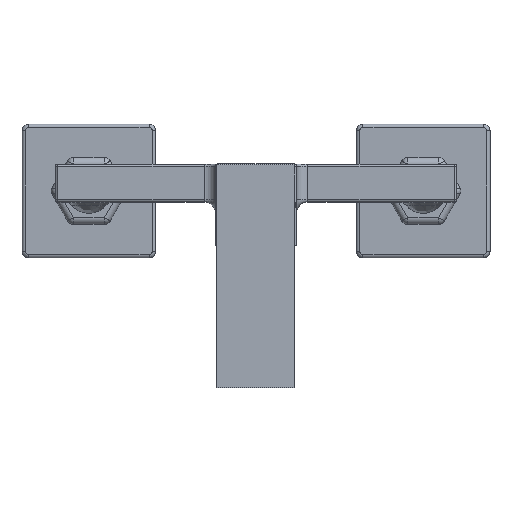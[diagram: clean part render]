
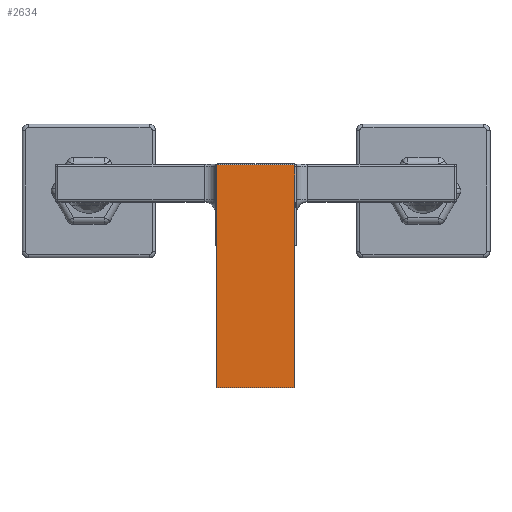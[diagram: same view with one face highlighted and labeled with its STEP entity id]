
A CAD part, top view. The second image highlights one B-rep face of the part: STEP entity #2634.
In plain terms, the highlighted planar face has unit normal (0, 0, 1).
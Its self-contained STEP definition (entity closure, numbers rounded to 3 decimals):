
#140=PLANE('',#2960);
#411=LINE('',#4833,#609);
#419=LINE('',#4849,#617);
#420=LINE('',#4852,#618);
#421=LINE('',#4853,#619);
#609=VECTOR('',#3754,10.);
#617=VECTOR('',#3770,10.);
#618=VECTOR('',#3773,10.);
#619=VECTOR('',#3774,10.);
#848=FACE_OUTER_BOUND('',#1014,.T.);
#1014=EDGE_LOOP('',(#2453,#2454,#2455,#2456));
#1373=VERTEX_POINT('',#4823);
#1377=VERTEX_POINT('',#4831);
#1381=VERTEX_POINT('',#4847);
#1382=VERTEX_POINT('',#4851);
#1733=EDGE_CURVE('',#1377,#1373,#411,.T.);
#1741=EDGE_CURVE('',#1377,#1381,#419,.T.);
#1742=EDGE_CURVE('',#1382,#1381,#420,.T.);
#1743=EDGE_CURVE('',#1373,#1382,#421,.T.);
#2453=ORIENTED_EDGE('',*,*,#1741,.T.);
#2454=ORIENTED_EDGE('',*,*,#1742,.F.);
#2455=ORIENTED_EDGE('',*,*,#1743,.F.);
#2456=ORIENTED_EDGE('',*,*,#1733,.F.);
#2634=ADVANCED_FACE('',(#848),#140,.T.);
#2960=AXIS2_PLACEMENT_3D('',#4850,#3771,#3772);
#3754=DIRECTION('',(0.,1.,0.));
#3770=DIRECTION('',(1.,0.,0.));
#3771=DIRECTION('center_axis',(0.,0.,1.));
#3772=DIRECTION('ref_axis',(0.,-1.,0.));
#3773=DIRECTION('',(0.,-1.,0.));
#3774=DIRECTION('',(1.,0.,0.));
#4823=CARTESIAN_POINT('',(-17.5,17.75,27.));
#4831=CARTESIAN_POINT('',(-17.5,-82.25,27.));
#4833=CARTESIAN_POINT('',(-17.5,17.75,27.));
#4847=CARTESIAN_POINT('',(17.5,-82.25,27.));
#4849=CARTESIAN_POINT('',(0.,-82.25,27.));
#4850=CARTESIAN_POINT('Origin',(0.,17.75,27.));
#4851=CARTESIAN_POINT('',(17.5,17.75,27.));
#4852=CARTESIAN_POINT('',(17.5,17.75,27.));
#4853=CARTESIAN_POINT('',(0.,17.75,27.));
